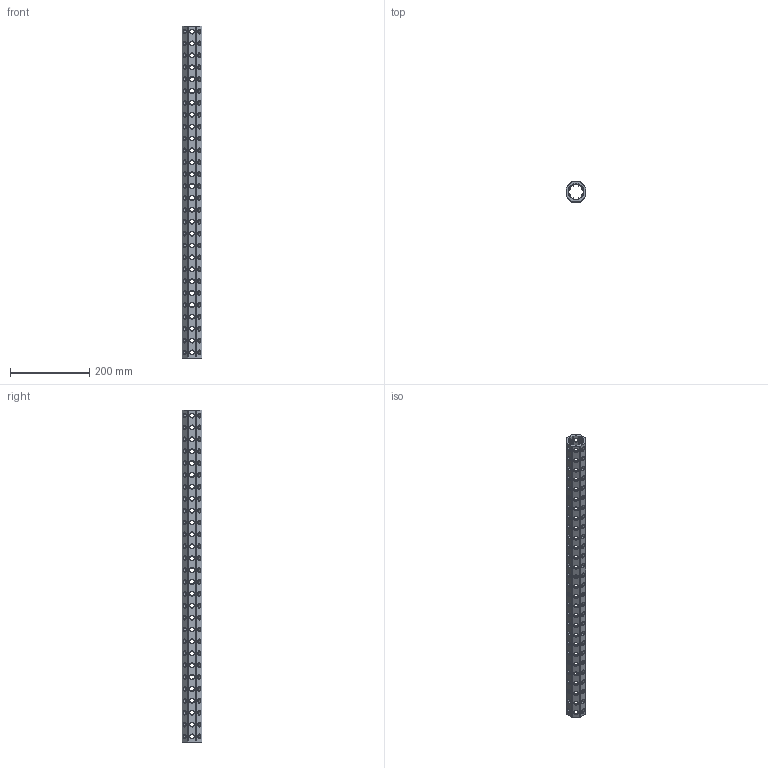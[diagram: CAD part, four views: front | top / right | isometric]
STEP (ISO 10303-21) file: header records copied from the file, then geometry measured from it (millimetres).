
FILE_DESCRIPTION(('CATIA V5 STEP Exchange'),'2;1');
FILE_NAME('U:\Room\唐宝山\EGT002\46-01-010257-01-EGT002-838.stp','2021-08-24T01:09:02+00:00',('none'),('none'),'CATIA Version 5 Release 21 GA (IN-10)','CATIA V5 STEP AP203','none');
FILE_SCHEMA(('CONFIG_CONTROL_DESIGN'));
Products named in the file (1): 46-01-010257-01-EGT002-838
Bounding box: 50 x 50 x 838 mm (x, y, z)
Volume: 596916.4 mm3; surface area: 288828.6 mm2
Topology: 1 solids, 1 shells, 1204 faces, 3326 edges, 2068 vertices
Faces by surface type: cone 672, cylinder 506, plane 26
Entity records: 49313 total; most frequent: CARTESIAN_POINT 20176, ORIENTED_EDGE 6652, DIRECTION 4658, EDGE_CURVE 3326, AXIS2_PLACEMENT_3D 2149, VERTEX_POINT 2068, EDGE_LOOP 1598, VECTOR 1306
